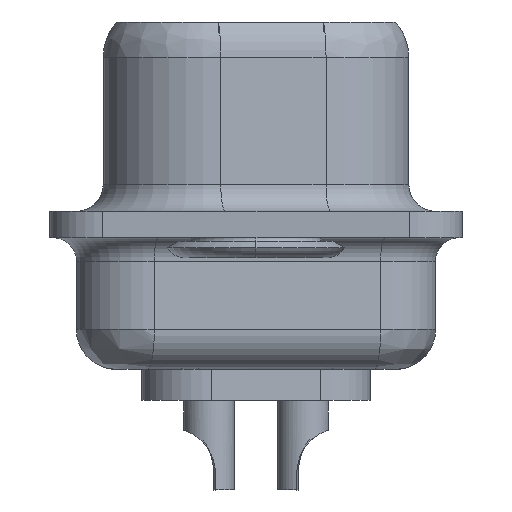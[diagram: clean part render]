
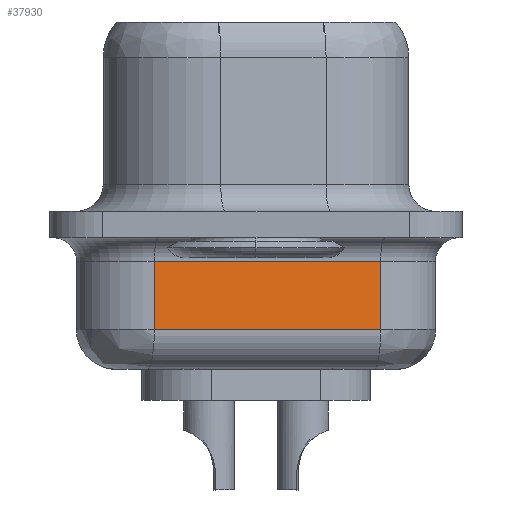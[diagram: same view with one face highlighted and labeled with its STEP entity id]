
A CAD part, left-side view. The second image highlights one B-rep face of the part: STEP entity #37930.
In plain terms, the highlighted planar face has unit normal (-0.985, -0.174, 0).
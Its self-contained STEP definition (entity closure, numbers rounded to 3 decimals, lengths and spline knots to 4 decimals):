
#1416=DIRECTION('',(-0.174,0.985,0.));
#1417=VECTOR('',#1416,6.9252);
#1418=CARTESIAN_POINT('',(-19.4221,-3.7573,-3.13));
#1419=LINE('6325',#1418,#1417);
#1429=DIRECTION('',(-0.174,0.985,0.));
#1430=VECTOR('',#1429,6.9252);
#1431=CARTESIAN_POINT('',(-19.4221,-3.7573,-1.07));
#1432=LINE('6324',#1431,#1430);
#1433=DIRECTION('',(0.,0.,-1.));
#1434=VECTOR('',#1433,2.06);
#1435=CARTESIAN_POINT('',(-20.6246,3.0627,-1.07));
#1436=LINE('6323',#1435,#1434);
#4322=DIRECTION('',(0.,0.,-1.));
#4323=VECTOR('',#4322,2.06);
#4324=CARTESIAN_POINT('',(-19.4221,-3.7573,-1.07));
#4325=LINE('6326',#4324,#4323);
#35279=CARTESIAN_POINT('',(-20.6246,3.0627,-1.07));
#35281=VERTEX_POINT('',#35279);
#35285=CARTESIAN_POINT('',(-20.6246,3.0627,-3.13));
#35286=VERTEX_POINT('',#35285);
#35287=CARTESIAN_POINT('',(-19.4221,-3.7573,-1.07));
#35288=VERTEX_POINT('',#35287);
#35289=CARTESIAN_POINT('',(-19.4221,-3.7573,-3.13));
#35290=VERTEX_POINT('',#35289);
#37916=CARTESIAN_POINT('',(-20.6246,3.0627,0.03));
#37917=DIRECTION('',(-0.985,-0.174,0.));
#37918=DIRECTION('',(0.174,-0.985,0.));
#37919=AXIS2_PLACEMENT_3D('',#37916,#37917,#37918);
#37920=PLANE('1685',#37919);
#37922=ORIENTED_EDGE('6324',*,*,#37921,.F.);
#37924=ORIENTED_EDGE('6326',*,*,#37923,.T.);
#37925=ORIENTED_EDGE('6325',*,*,#37899,.T.);
#37927=ORIENTED_EDGE('6323',*,*,#37926,.F.);
#37928=EDGE_LOOP('1685',(#37922,#37924,#37925,#37927));
#37929=FACE_OUTER_BOUND('1685',#37928,.F.);
#37930=ADVANCED_FACE('1685',(#37929),#37920,.T.);
#37899=EDGE_CURVE('6325',#35290,#35286,#1419,.T.);
#37921=EDGE_CURVE('6324',#35288,#35281,#1432,.T.);
#37923=EDGE_CURVE('6326',#35288,#35290,#4325,.T.);
#37926=EDGE_CURVE('6323',#35281,#35286,#1436,.T.);
